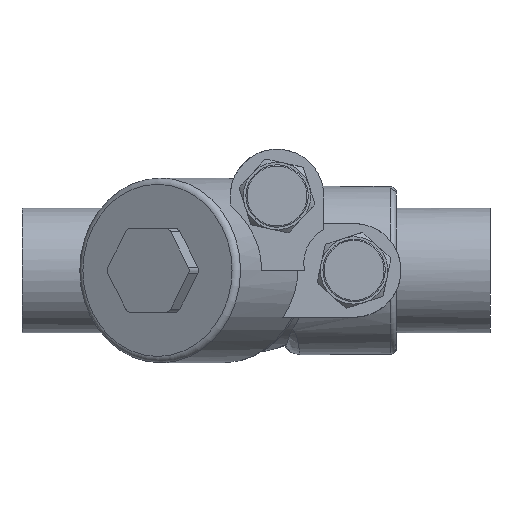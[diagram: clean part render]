
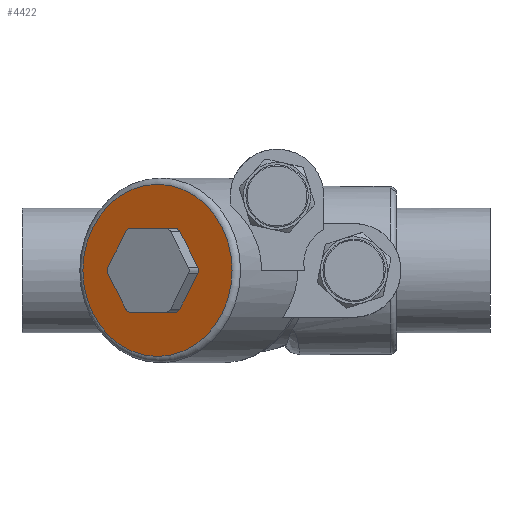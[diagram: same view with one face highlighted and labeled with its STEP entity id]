
A CAD part, left-side view. The second image highlights one B-rep face of the part: STEP entity #4422.
In plain terms, the highlighted planar face has unit normal (-0.866, 0.5, 0).
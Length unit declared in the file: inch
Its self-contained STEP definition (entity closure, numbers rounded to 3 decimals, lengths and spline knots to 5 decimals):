
#90=FACE_BOUND('',#682,.T.);
#183=PLANE('',#4720);
#431=FACE_OUTER_BOUND('',#681,.T.);
#681=EDGE_LOOP('',(#3563));
#682=EDGE_LOOP('',(#3564,#3565,#3566,#3567,#3568,#3569,#3570,#3571,#3572,
#3573,#3574,#3575));
#1019=CIRCLE('',#4652,0.05);
#1025=CIRCLE('',#4661,0.05);
#1026=CIRCLE('',#4663,0.05);
#1027=CIRCLE('',#4666,0.05);
#1028=CIRCLE('',#4669,0.05);
#1029=CIRCLE('',#4672,0.05);
#1046=CIRCLE('',#4714,0.69);
#1294=LINE('',#7971,#1553);
#1300=LINE('',#7986,#1559);
#1303=LINE('',#7994,#1562);
#1306=LINE('',#8002,#1565);
#1333=LINE('',#8273,#1592);
#1334=LINE('',#8275,#1593);
#1553=VECTOR('',#5308,0.3937);
#1559=VECTOR('',#5324,0.3937);
#1562=VECTOR('',#5333,0.3937);
#1565=VECTOR('',#5342,0.3937);
#1592=VECTOR('',#5451,0.3937);
#1593=VECTOR('',#5454,0.3937);
#1871=VERTEX_POINT('',#7942);
#1872=VERTEX_POINT('',#7944);
#1883=VERTEX_POINT('',#7970);
#1884=VERTEX_POINT('',#7974);
#1885=VERTEX_POINT('',#7978);
#1886=VERTEX_POINT('',#7980);
#1887=VERTEX_POINT('',#7984);
#1888=VERTEX_POINT('',#7988);
#1889=VERTEX_POINT('',#7990);
#1890=VERTEX_POINT('',#7996);
#1891=VERTEX_POINT('',#8000);
#1892=VERTEX_POINT('',#8004);
#1935=VERTEX_POINT('',#8277);
#2407=EDGE_CURVE('',#1871,#1872,#1019,.F.);
#2420=EDGE_CURVE('',#1883,#1872,#1294,.T.);
#2422=EDGE_CURVE('',#1883,#1884,#1025,.F.);
#2425=EDGE_CURVE('',#1885,#1886,#1026,.F.);
#2428=EDGE_CURVE('',#1885,#1887,#1300,.T.);
#2430=EDGE_CURVE('',#1888,#1889,#1027,.F.);
#2432=EDGE_CURVE('',#1888,#1884,#1303,.T.);
#2434=EDGE_CURVE('',#1890,#1887,#1028,.F.);
#2436=EDGE_CURVE('',#1890,#1891,#1306,.T.);
#2438=EDGE_CURVE('',#1892,#1891,#1029,.F.);
#2500=EDGE_CURVE('',#1871,#1886,#1333,.T.);
#2501=EDGE_CURVE('',#1892,#1889,#1334,.T.);
#2502=EDGE_CURVE('',#1935,#1935,#1046,.T.);
#3563=ORIENTED_EDGE('',*,*,#2502,.F.);
#3564=ORIENTED_EDGE('',*,*,#2500,.T.);
#3565=ORIENTED_EDGE('',*,*,#2425,.F.);
#3566=ORIENTED_EDGE('',*,*,#2428,.T.);
#3567=ORIENTED_EDGE('',*,*,#2434,.F.);
#3568=ORIENTED_EDGE('',*,*,#2436,.T.);
#3569=ORIENTED_EDGE('',*,*,#2438,.F.);
#3570=ORIENTED_EDGE('',*,*,#2501,.T.);
#3571=ORIENTED_EDGE('',*,*,#2430,.F.);
#3572=ORIENTED_EDGE('',*,*,#2432,.T.);
#3573=ORIENTED_EDGE('',*,*,#2422,.F.);
#3574=ORIENTED_EDGE('',*,*,#2420,.T.);
#3575=ORIENTED_EDGE('',*,*,#2407,.F.);
#4422=ADVANCED_FACE('',(#431,#90),#183,.T.);
#4652=AXIS2_PLACEMENT_3D('',#7945,#5285,#5286);
#4661=AXIS2_PLACEMENT_3D('',#7975,#5312,#5313);
#4663=AXIS2_PLACEMENT_3D('',#7981,#5318,#5319);
#4666=AXIS2_PLACEMENT_3D('',#7991,#5328,#5329);
#4669=AXIS2_PLACEMENT_3D('',#7998,#5337,#5338);
#4672=AXIS2_PLACEMENT_3D('',#8006,#5346,#5347);
#4714=AXIS2_PLACEMENT_3D('',#8278,#5457,#5458);
#4720=AXIS2_PLACEMENT_3D('',#8331,#5470,#5471);
#5285=DIRECTION('center_axis',(0.866,-0.5,0.));
#5286=DIRECTION('ref_axis',(-0.25,-0.433,0.866));
#5308=DIRECTION('',(-0.5,-0.866,0.));
#5312=DIRECTION('center_axis',(0.866,-0.5,0.));
#5313=DIRECTION('ref_axis',(0.25,0.433,0.866));
#5318=DIRECTION('center_axis',(0.866,-0.5,0.));
#5319=DIRECTION('ref_axis',(-0.5,-0.866,0.));
#5324=DIRECTION('',(0.25,0.433,-0.866));
#5328=DIRECTION('center_axis',(0.866,-0.5,0.));
#5329=DIRECTION('ref_axis',(0.5,0.866,0.));
#5333=DIRECTION('',(-0.25,-0.433,0.866));
#5337=DIRECTION('center_axis',(0.866,-0.5,0.));
#5338=DIRECTION('ref_axis',(-0.25,-0.433,-0.866));
#5342=DIRECTION('',(0.5,0.866,0.));
#5346=DIRECTION('center_axis',(0.866,-0.5,0.));
#5347=DIRECTION('ref_axis',(0.25,0.433,-0.866));
#5451=DIRECTION('',(-0.25,-0.433,-0.866));
#5454=DIRECTION('',(0.25,0.433,0.866));
#5457=DIRECTION('center_axis',(0.866,-0.5,0.));
#5458=DIRECTION('ref_axis',(0.5,0.866,0.));
#5470=DIRECTION('center_axis',(-0.866,0.5,0.));
#5471=DIRECTION('ref_axis',(0.,0.,
1.));
#7942=CARTESIAN_POINT('',(-2.81634,1.73373,-0.81828));
#7944=CARTESIAN_POINT('',(-2.79469,1.77123,-0.79328));
#7945=CARTESIAN_POINT('Origin',(-2.79469,1.77123,-0.84328));
#7970=CARTESIAN_POINT('',(-2.63014,2.05623,-0.79328));
#7971=CARTESIAN_POINT('',(-2.76077,1.82998,-0.79328));
#7974=CARTESIAN_POINT('',(-2.60849,2.09373,-0.81828));
#7975=CARTESIAN_POINT('Origin',(-2.63014,2.05623,-0.84328));
#7978=CARTESIAN_POINT('',(-2.89861,1.59123,-1.15328));
#7980=CARTESIAN_POINT('',(-2.89861,1.59123,-1.10328));
#7981=CARTESIAN_POINT('Origin',(-2.87696,1.62873,-1.12828));
#7984=CARTESIAN_POINT('',(-2.81634,1.73373,-1.43828));
#7986=CARTESIAN_POINT('',(-2.8333,1.70435,-1.37953));
#7988=CARTESIAN_POINT('',(-2.52622,2.23623,-1.10328));
#7990=CARTESIAN_POINT('',(-2.52622,2.23623,-1.15328));
#7991=CARTESIAN_POINT('Origin',(-2.54787,2.19873,-1.12828));
#7994=CARTESIAN_POINT('',(-2.59153,2.1231,-0.87703));
#7996=CARTESIAN_POINT('',(-2.79469,1.77123,-1.46328));
#7998=CARTESIAN_POINT('Origin',(-2.79469,1.77123,-1.41328));
#8000=CARTESIAN_POINT('',(-2.63014,2.05623,-1.46328));
#8002=CARTESIAN_POINT('',(-2.66406,1.99748,-1.46328));
#8004=CARTESIAN_POINT('',(-2.60849,2.09373,-1.43828));
#8006=CARTESIAN_POINT('Origin',(-2.63014,2.05623,-1.41328));
#8273=CARTESIAN_POINT('',(-2.88165,1.6206,-1.04453));
#8275=CARTESIAN_POINT('',(-2.54318,2.20685,-1.21203));
#8277=CARTESIAN_POINT('',(-2.71241,1.91373,-1.81828));
#8278=CARTESIAN_POINT('Origin',(-2.71241,1.91373,-1.12828));
#8331=CARTESIAN_POINT('Origin',(-2.71241,1.91373,-1.12828));
